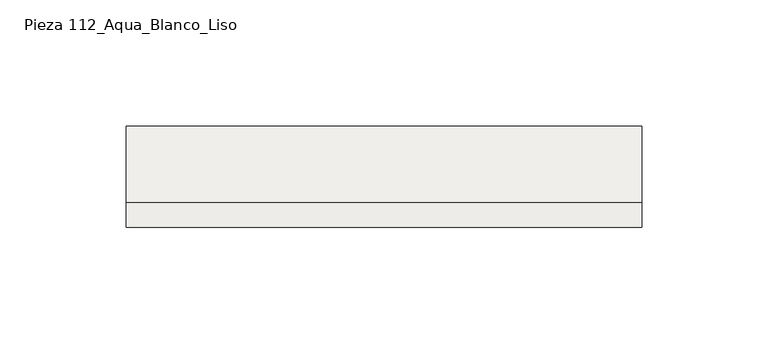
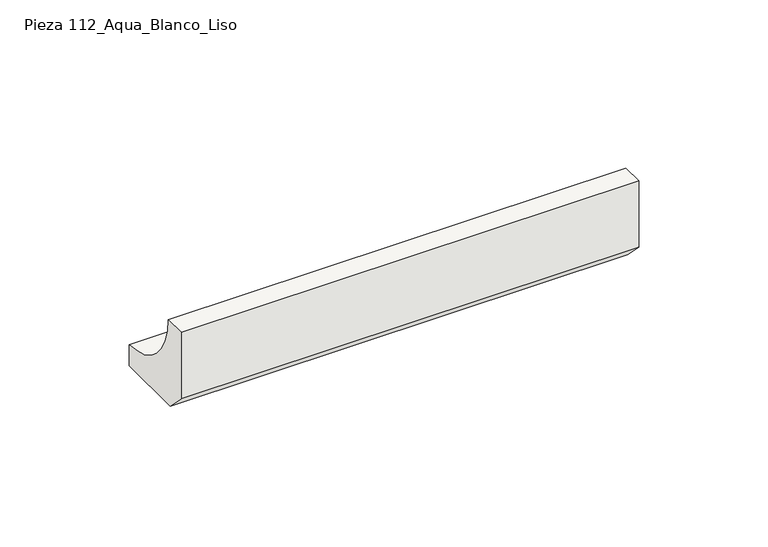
"""IFC4 building model written with IfcOpenShell, lengths in millimetres: slab geometry, ROSA GRES_112 : Pieza 112_Aqua_Blanco_Liso."""

from ifc_helpers import new_model, si_unit, point, frame, frame_2d, origin, place, context, project, spatial, polyline, circle_curve, trimmed, segment, composite_curve, outline, extrude, source, transform, mapped, element, save


def pieza_112_aqua_blanco_liso_7815b8de(model_context):
    return source(origin(), model_context, "Body", "SweptSolid", [
        extrude(outline(composite_curve([segment(polyline([(-9.9734114, 8.7114978), (-9.9734114, 40.0), (0.0, 40.0)]), True, "CONTINUOUS"), segment(trimmed(circle_curve(frame_2d((30.0221432, 39.9955547)), 30.0221435), [point((0.0, 40.0))], [point((30.0265886, 9.9734114))], True, "CARTESIAN"), True, "CONTINUOUS"), segment(polyline([(30.0265886, 9.9734114), (30.0265886, 0.0), (-1.2619137, 0.0), (-9.9734114, 8.7114978)]), True, "CONTINUOUS")], self_intersect=False)), frame((0.0, 0.0, 0.0), z_axis=(1.0, 0.0, 0.0), x_axis=(0.0, 1.0, 0.0)), (0.0, 0.0, 1.0), 203.836227),
    ])


if __name__ == "__main__":
    model = new_model("IFC4")
    model_context = context("Model", 3, world=origin())
    ifc_project = project(units=[si_unit("LENGTHUNIT", "METRE", prefix="MILLI")], contexts=[model_context])
    site = spatial("IfcSite", under=ifc_project)
    building = spatial("IfcBuilding", under=site)
    placement = place(None, origin())
    pieza_112_aqua_blanco_liso_shape = pieza_112_aqua_blanco_liso_7815b8de(model_context)
    element("IfcSlab", 1, ObjectType="ROSA GRES_112 : Pieza 112_Aqua_Blanco_Liso", at=placement, inside=building, context=model_context, shape_type="MappedRepresentation", body=[
        mapped(pieza_112_aqua_blanco_liso_shape, transform((0.0, 0.0, 0.0), x_axis=(1.0, 0.0, 0.0), y_axis=(0.0, 1.0, 0.0), z_axis=(0.0, 0.0, 1.0))),
    ])
    save(model, "model.ifc")
